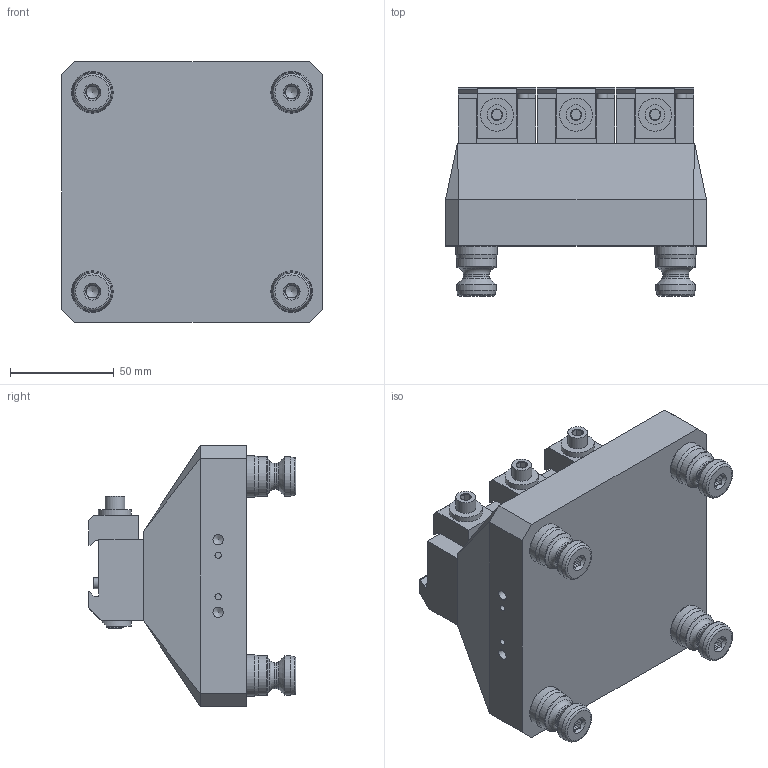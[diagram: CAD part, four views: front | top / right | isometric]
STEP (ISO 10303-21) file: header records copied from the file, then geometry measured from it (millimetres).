
FILE_DESCRIPTION (( 'STEP AP214' ), '1' );
FILE_NAME ('A96-3D115P_WEBSITE.STEP', '2025-08-11T13:19:52', ( '' ), ( '' ), 'SwSTEP 2.0', 'SolidWorks 2025', '' );
FILE_SCHEMA (( 'AUTOMOTIVE_DESIGN' ));
Length unit declared in the file: inch
Products named in the file (16): D_D1151P_WEBSITE; D_HW. 73062_WEBSITE_91251A441; D_LP250-207_WEBSITE_WITH THREADS ; D_CDS25_WEBSITE_MILL OP2; D_LP250_WEBSITE_NO THREADS ; D_SLD25_WEBSITE_SLD25; D_39874.CPSS_WEBSITE_91390A162; A96-3D115P_WEBSITE; D_HW.0250.FW_WEBSITE_DEFAULT; D_HW.01480_WEBSITE; D_D1151P-1_WEBSITE_FINISHED PART; D_PS20F_WEBSITE; A96-3D115P-1_WEBSITE; D_HW.73074_WEBSITE_DEFAULT; D_PS20F-1_WEBSITE_HARD TURN; D_HW.LC049E05M_WEBSITE
Assembly tree (22 placements, depth 3):
  A96-3D115P_WEBSITE
    A96-3D115P-1_WEBSITE
    D_PS20F_WEBSITE  x4
      D_PS20F-1_WEBSITE_HARD TURN
      D_39874.CPSS_WEBSITE_91390A162
    D_D1151P_WEBSITE  x3
      D_D1151P-1_WEBSITE_FINISHED PART
      D_LP250_WEBSITE_NO THREADS 
      D_CDS25_WEBSITE_MILL OP2
      D_SLD25_WEBSITE_SLD25
      D_HW.01480_WEBSITE
      D_HW.0250.FW_WEBSITE_DEFAULT
      D_HW.73074_WEBSITE_DEFAULT
      D_HW.LC049E05M_WEBSITE
      D_LP250-207_WEBSITE_WITH THREADS 
      D_HW. 73062_WEBSITE_91251A441
Bounding box: 125.73 x 100.23 x 125.73 mm (x, y, z)
Volume: 752439.9 mm3; surface area: 128730.7 mm2
Topology: 45 solids, 45 shells, 863 faces, 1841 edges, 1147 vertices
Faces by surface type: plane 497, cylinder 177, cone 145, torus 32, bspline 12
Full cylindrical faces by diameter (mm): 3.03 x2, 3.759 x9, 4.039 x6, 4.803 x9, 5 x5, 5.271 x3, 5.41 x9, 6.147 x4, 6.35 x18, 6.365 x9, 6.375 x6, 6.604 x3, 6.756 x9, 7.144 x3, 7.353 x3, 8.433 x3, 8.5 x8, 9.525 x12, 10 x8, 10.033 x6, 12.497 x4, 12.69 x3, 12.738 x6, 12.802 x3, 15.875 x3, 15.992 x4, 16.02 x4, 19.012 x8, 19.972 x4
Entity records: 9685 total; most frequent: CARTESIAN_POINT 2736, DIRECTION 1221, ORIENTED_EDGE 912, AXIS2_PLACEMENT_3D 504, EDGE_CURVE 456, EDGE_LOOP 453, FACE_OUTER_BOUND 362, VERTEX_POINT 343
